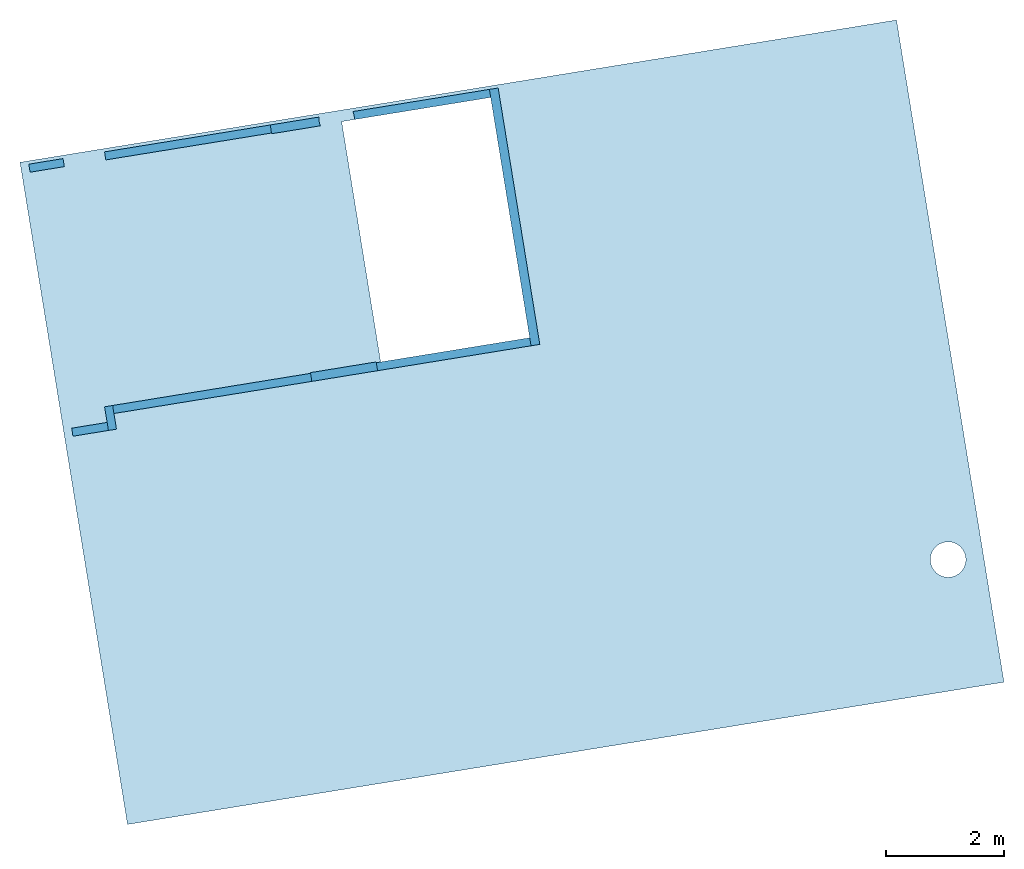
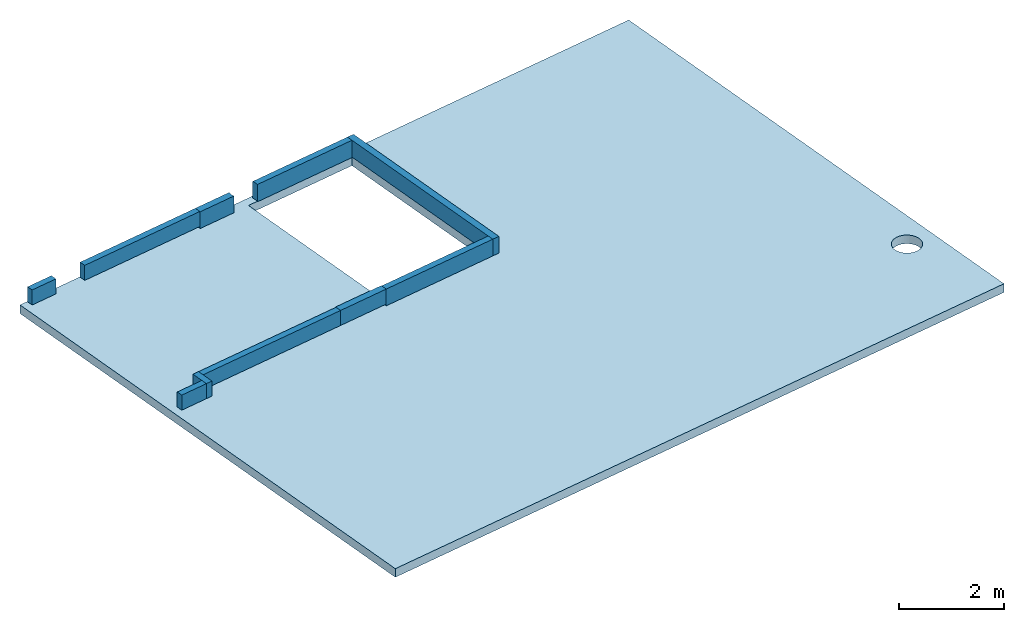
# One storey: 9 walls, 1 slab.
"""IFC2X3 building model written with IfcOpenShell, lengths in millimetres."""

from ifc_helpers import new_model, entity, si_unit, converted_unit, derived_unit, direction, frame, origin, origin_with_axes, place, context, subcontext, project, spatial, faceted_brep, material, layer, layer_set, type_object, element, save


model = new_model("IFC2X3")

# Units and contexts
model_context = context("Model", 3, precision=0.01, world=origin(), true_north=direction((6.12323399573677e-17, 1.0)))
plan_context = context("Plan", 3, precision=1e-05, world=origin_with_axes())
body_context = subcontext(model_context, "Body", "Model", "MODEL_VIEW")
ifc_project = project(units=[converted_unit("PLANEANGLEUNIT", "DEGREE", entity("IfcPositiveLengthMeasure", 0.0174532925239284), si_unit("PLANEANGLEUNIT", "RADIAN"), dimensions=[0, 0, 0, 0, 0, 0, 0]), si_unit("AREAUNIT", "SQUARE_METRE"), si_unit("LENGTHUNIT", "METRE", prefix="MILLI"), si_unit("MASSUNIT", "GRAM", prefix="KILO"), si_unit("POWERUNIT", "WATT"), si_unit("PRESSUREUNIT", "PASCAL", prefix="KILO"), si_unit("FORCEUNIT", "NEWTON", prefix="KILO"), si_unit("ELECTRICVOLTAGEUNIT", "VOLT"), si_unit("ELECTRICCURRENTUNIT", "AMPERE"), si_unit("THERMODYNAMICTEMPERATUREUNIT", "DEGREE_CELSIUS"), si_unit("TIMEUNIT", "SECOND"), si_unit("VOLUMEUNIT", "CUBIC_METRE"), derived_unit("LINEARVELOCITYUNIT", [(si_unit("LENGTHUNIT", "METRE"), 1), (si_unit("TIMEUNIT", "SECOND"), -1)]), derived_unit("VOLUMETRICFLOWRATEUNIT", [(si_unit("VOLUMEUNIT", "CUBIC_METRE"), 1), (si_unit("TIMEUNIT", "SECOND"), -1)]), derived_unit("THERMALTRANSMITTANCEUNIT", [(si_unit("POWERUNIT", "WATT"), 1), (si_unit("THERMODYNAMICTEMPERATUREUNIT", "KELVIN"), -1), (si_unit("AREAUNIT", "SQUARE_METRE"), -1)]), derived_unit("SOUNDPRESSUREUNIT", [(si_unit("PRESSUREUNIT", "PASCAL"), 1)])], contexts=[model_context, plan_context])

# Site, building, storey
site_placement = place(None, frame((-0.00071070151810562, 0.00438415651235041, 0.0), z_axis=(0.0, 0.0, 1.0), x_axis=(-0.160236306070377, 0.987078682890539, 0.0)))
site = spatial("IfcSite", under=ifc_project, at=site_placement, Name="Default", CompositionType="ELEMENT")
building_placement = place(site_placement, origin_with_axes())
building = spatial("IfcBuilding", under=site, at=building_placement, Name="TOO", CompositionType="ELEMENT")
storey_placement = place(building_placement, frame((0.0, 0.0, 55630.0), z_axis=(0.0, 0.0, 1.0), x_axis=(1.0, 0.0, 0.0)))
storey = spatial("IfcBuildingStorey", under=building, at=storey_placement, Name="Himlingsplan Nivå E", CompositionType="ELEMENT", Elevation=55630.0)

# Slab
ifc_material_1 = material(Name="_NSW Betong")
ifc_layer_1 = layer(ifc_material_1, 200.0)
ifc_layer_set_1 = layer_set([ifc_layer_1], Name="Floor:A252 - Hulldekke 200 mm")
slab_type = type_object("IfcSlabType", Name="Floor:A252 - Hulldekke 200 mm", PredefinedType="FLOOR", material=ifc_layer_set_1)
slab_placement = place(storey_placement, origin_with_axes())
element("IfcSlab", 1, at=slab_placement, inside=storey, type_object=slab_type, Name="Floor:A252 - Hulldekke 200 mm", ObjectType="Floor:A252 - Hulldekke 200 mm", PredefinedType="FLOOR", context=body_context, shape_type="Brep", body=[
    faceted_brep([(775707.619644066, -594577.480214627, -1020.0), (775707.619644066, -594577.480214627, -820.000000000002), (779820.119644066, -594577.480214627, -820.000000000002), (779820.119644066, -594577.480214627, -1020.0), (779820.119644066, -597127.480497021, -820.000000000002), (779820.119644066, -597127.480497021, -1020.0), (775707.619644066, -597127.480497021, -820.000000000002), (775707.619644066, -597127.480497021, -1020.0), (771177.619644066, -603502.480498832, -1020.0), (771177.619644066, -603502.480498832, -820.000000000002), (771173.528035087, -603551.858875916, -820.000000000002), (771173.528035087, -603551.858875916, -1020.0), (771161.364816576, -603599.890339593, -820.000000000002), (771161.364816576, -603599.890339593, -1020.0), (771141.461769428, -603645.264716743, -820.000000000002), (771141.461769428, -603645.264716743, -1020.0), (771114.361796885, -603686.744312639, -820.000000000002), (771114.361796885, -603686.744312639, -1020.0), (771080.804115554, -603723.197672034, -820.000000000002), (771080.804115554, -603723.197672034, -1020.0), (771041.704091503, -603753.630442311, -820.000000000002), (771041.704091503, -603753.630442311, -1020.0), (770998.128271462, -603777.212496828, -820.000000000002), (770998.128271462, -603777.212496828, -1020.0), (770951.265290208, -603793.300578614, -820.000000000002), (770951.265290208, -603793.300578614, -1020.0), (770902.393447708, -603801.455846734, -820.000000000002), (770902.393447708, -603801.455846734, -1020.0), (770852.845840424, -603801.455846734, -820.000000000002), (770852.845840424, -603801.455846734, -1020.0), (770803.973997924, -603793.300578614, -820.000000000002), (770803.973997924, -603793.300578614, -1020.0), (770757.11101667, -603777.212496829, -820.000000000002), (770757.11101667, -603777.212496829, -1020.0), (770713.535196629, -603753.630442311, -820.000000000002), (770713.535196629, -603753.630442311, -1020.0), (770674.435172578, -603723.197672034, -820.000000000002), (770674.435172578, -603723.197672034, -1020.0), (770640.877491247, -603686.744312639, -820.000000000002), (770640.877491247, -603686.744312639, -1020.0), (770613.777518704, -603645.264716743, -820.000000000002), (770613.777518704, -603645.264716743, -1020.0), (770593.874471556, -603599.890339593, -820.000000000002), (770593.874471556, -603599.890339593, -1020.0), (770581.711253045, -603551.858875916, -820.000000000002), (770581.711253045, -603551.858875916, -1020.0), (770577.619644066, -603502.480498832, -820.000000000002), (770577.619644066, -603502.480498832, -1020.0), (770582.177318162, -603450.386045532, -820.000000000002), (770582.177318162, -603450.386045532, -1020.0), (770595.71185783, -603399.874455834, -820.000000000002), (770595.71185783, -603399.874455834, -1020.0), (770617.812022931, -603352.480498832, -820.000000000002), (770617.812022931, -603352.480498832, -1020.0), (770647.80631113, -603309.644215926, -820.000000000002), (770647.80631113, -603309.644215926, -1020.0), (770684.78336116, -603272.667165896, -820.000000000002), (770684.78336116, -603272.667165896, -1020.0), (770727.619644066, -603242.672877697, -820.000000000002), (770727.619644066, -603242.672877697, -1020.0), (770775.013601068, -603220.572712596, -820.000000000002), (770775.013601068, -603220.572712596, -1020.0), (770825.525190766, -603207.038172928, -820.000000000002), (770825.525190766, -603207.038172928, -1020.0), (770877.619644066, -603202.480498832, -820.000000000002), (770877.619644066, -603202.480498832, -1020.0), (770929.714097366, -603207.038172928, -820.000000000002), (770929.714097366, -603207.038172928, -1020.0), (770980.225687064, -603220.572712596, -820.000000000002), (770980.225687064, -603220.572712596, -1020.0), (771027.619644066, -603242.672877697, -820.000000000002), (771027.619644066, -603242.672877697, -1020.0), (771070.455926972, -603272.667165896, -820.000000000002), (771070.455926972, -603272.667165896, -1020.0), (771107.432977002, -603309.644215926, -820.000000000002), (771107.432977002, -603309.644215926, -1020.0), (771137.427265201, -603352.480498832, -820.000000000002), (771137.427265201, -603352.480498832, -1020.0), (771159.527430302, -603399.874455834, -820.000000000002), (771159.527430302, -603399.874455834, -1020.0), (771173.06196997, -603450.386045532, -820.000000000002), (771173.06196997, -603450.386045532, -1020.0), (780012.619644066, -589104.927996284, -1020.0), (780012.619644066, -589104.927996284, -820.000000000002), (768682.619644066, -589104.927996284, -820.000000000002), (768682.619644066, -589104.927996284, -1020.0), (768682.619644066, -604102.480498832, -1020.0), (768682.619644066, -604102.480498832, -820.000000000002), (780012.619644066, -604102.480498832, -820.000000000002), (780012.619644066, -604102.480498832, -1020.0)], [[[0, 1, 2, 3]], [[3, 2, 4, 5]], [[5, 4, 6, 7]], [[7, 6, 1, 0]], [[8, 9, 10, 11]], [[11, 10, 12, 13]], [[13, 12, 14, 15]], [[15, 14, 16, 17]], [[17, 16, 18, 19]], [[19, 18, 20, 21]], [[21, 20, 22, 23]], [[23, 22, 24, 25]], [[25, 24, 26, 27]], [[27, 26, 28, 29]], [[29, 28, 30, 31]], [[31, 30, 32, 33]], [[33, 32, 34, 35]], [[35, 34, 36, 37]], [[37, 36, 38, 39]], [[39, 38, 40, 41]], [[41, 40, 42, 43]], [[43, 42, 44, 45]], [[45, 44, 46, 47]], [[47, 46, 48, 49]], [[49, 48, 50, 51]], [[51, 50, 52, 53]], [[53, 52, 54, 55]], [[55, 54, 56, 57]], [[57, 56, 58, 59]], [[59, 58, 60, 61]], [[61, 60, 62, 63]], [[63, 62, 64, 65]], [[65, 64, 66, 67]], [[67, 66, 68, 69]], [[69, 68, 70, 71]], [[71, 70, 72, 73]], [[73, 72, 74, 75]], [[75, 74, 76, 77]], [[77, 76, 78, 79]], [[79, 78, 80, 81]], [[81, 80, 9, 8]], [[82, 83, 84, 85]], [[86, 87, 88, 89]], [[85, 86, 89, 82], [0, 3, 5, 7], [8, 11, 13, 15, 17, 19, 21, 23, 25, 27, 29, 31, 33, 35, 37, 39, 41, 43, 45, 47, 49, 51, 53, 55, 57, 59, 61, 63, 65, 67, 69, 71, 73, 75, 77, 79, 81]], [[87, 84, 83, 88], [1, 6, 4, 2], [9, 80, 78, 76, 74, 72, 70, 68, 66, 64, 62, 60, 58, 56, 54, 52, 50, 48, 46, 44, 42, 40, 38, 36, 34, 32, 30, 28, 26, 24, 22, 20, 18, 16, 14, 12, 10]], [[89, 88, 83, 82]], [[87, 86, 85, 84]]], orient=[[False], [False], [False], [False], [False], [False], [False], [False], [False], [False], [False], [False], [False], [False], [False], [False], [False], [False], [False], [False], [False], [False], [False], [False], [False], [False], [False], [False], [False], [False], [False], [False], [False], [False], [False], [False], [False], [False], [False], [False], [False], [False], [False], [False, False, False], [False, False, False], [False], [False]]),
])

# Walls
ifc_material_2 = material(Name="A240 - Gipsplate")
ifc_layer_2 = layer(ifc_material_2, 12.5)
ifc_layer_3 = layer(ifc_material_2, 12.5)
ifc_layer_4 = layer(ifc_material_2, 12.5)
ifc_material_3 = material(Name="A240 - Stenderverk - Usiolert")
ifc_layer_5 = layer(ifc_material_3, 100.0)
ifc_layer_set_2 = layer_set([ifc_layer_2, ifc_layer_3, ifc_layer_4, ifc_layer_5], Name="Basic Wall:A242 - GGG100/0")
wall_type_1 = type_object("IfcWallType", Name="Basic Wall:A242 - GGG100/0", PredefinedType="STANDARD", material=ifc_layer_set_2)
wall_1_placement = place(storey_placement, frame((779888.869644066, -597127.480498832, -833.0), z_axis=(0.0, 0.0, 1.0), x_axis=(0.0, 1.0, 0.0)))
element("IfcWall", 2, at=wall_1_placement, inside=storey, type_object=wall_type_1, Name="Basic Wall:A242 - GGG100/0", ObjectType="Basic Wall:A242 - GGG100/0", context=body_context, shape_type="Brep", body=[
    faceted_brep([(2335.00000000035, -68.7500000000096, 402.999999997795), (2335.00000000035, -65.5614574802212, 402.999999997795), (2335.00000000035, -65.5614574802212, 0.0), (2335.00000000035, -68.7500000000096, 0.0), (2330.56197596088, 68.7500000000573, 402.999999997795), (4.54747350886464e-13, 68.7500000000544, 402.999999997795), (4.54747350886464e-13, 68.7500000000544, 0.0), (2330.56197596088, 68.7500000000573, 0.0), (0.0, -68.7500000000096, 402.999999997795), (0.0, -68.7500000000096, 0.0), (2326.75851256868, -21.1847834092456, 402.999999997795), (2326.75851256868, -21.1847834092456, 0.0), (2325.26792439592, 23.9260740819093, 402.999999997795), (2325.26792439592, 23.9260740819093, 0.0)], [[[0, 1, 2, 3]], [[4, 5, 6, 7]], [[5, 8, 9, 6]], [[8, 0, 3, 9]], [[1, 10, 11, 2]], [[10, 12, 13, 11]], [[12, 4, 7, 13]], [[3, 2, 11, 13, 7, 6, 9]], [[8, 5, 4, 12, 10, 1, 0]]], orient=[[False], [False], [False], [False], [False], [False], [False], [False], [False]]),
])
wall_2_placement = place(storey_placement, frame((775638.869644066, -597127.480498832, -820.0), z_axis=(0.0, 0.0, 1.0), x_axis=(0.0, 1.0, 0.0)))
element("IfcWall", 3, at=wall_2_placement, inside=storey, type_object=wall_type_1, Name="Basic Wall:A242 - GGG100/0", ObjectType="Basic Wall:A242 - GGG100/0", context=body_context, shape_type="Brep", body=[
    faceted_brep([(2624.99999999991, -68.7500000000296, 389.999999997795), (2624.99999999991, 68.7500000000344, 389.999999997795), (2624.99999999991, 68.7500000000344, 0.0), (2624.99999999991, -68.7500000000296, 0.0), (-2.27373675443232e-13, 68.7500000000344, 389.999999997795), (-2.27373675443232e-13, 68.7500000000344, 0.0), (-2.27373675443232e-13, -68.7500000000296, 389.999999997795), (-2.27373675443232e-13, -68.7500000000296, 0.0)], [[[0, 1, 2, 3]], [[1, 4, 5, 2]], [[4, 6, 7, 5]], [[6, 0, 3, 7]], [[3, 2, 5, 7]], [[6, 4, 1, 0]]], orient=[[False], [False], [False], [False], [False], [False]]),
])
wall_3_placement = place(storey_placement, frame((775638.869644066, -593377.480498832, -780.0), z_axis=(0.0, 0.0, 1.0), x_axis=(0.0, 1.0, 0.0)))
element("IfcWall", 4, at=wall_3_placement, inside=storey, type_object=wall_type_1, Name="Basic Wall:A242 - GGG100/0", ObjectType="Basic Wall:A242 - GGG100/0", context=body_context, shape_type="Brep", body=[
    faceted_brep([(3386.50293185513, -68.750000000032, 349.999999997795), (3386.50293185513, 68.750000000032, 349.999999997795), (3386.50293185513, 68.750000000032, 0.0), (3386.50293185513, -68.750000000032, 0.0), (2.27373675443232e-13, 68.750000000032, 349.999999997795), (2.27373675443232e-13, 68.750000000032, 0.0), (2.27373675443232e-13, -68.750000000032, 349.999999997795), (2.27373675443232e-13, -68.750000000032, 0.0)], [[[0, 1, 2, 3]], [[1, 4, 5, 2]], [[4, 6, 7, 5]], [[6, 0, 3, 7]], [[3, 2, 5, 7]], [[6, 4, 1, 0]]], orient=[[False], [False], [False], [False], [False], [False]]),
])
wall_4_placement = place(storey_placement, frame((779888.869644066, -593377.480498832, -780.0), z_axis=(0.0, 0.0, 1.0), x_axis=(0.0, 1.0, 0.0)))
element("IfcWall", 5, at=wall_4_placement, inside=storey, type_object=wall_type_1, Name="Basic Wall:A242 - GGG100/0", ObjectType="Basic Wall:A242 - GGG100/0", context=body_context, shape_type="Brep", body=[
    faceted_brep([(0.0, 68.750000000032, 349.999999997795), (0.0, -68.750000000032, 349.999999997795), (0.0, -68.750000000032, 0.0), (0.0, 68.750000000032, 0.0), (3544.99876000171, -68.749999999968, 349.999999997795), (4130.5480755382, -68.750000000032, 349.999999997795), (4130.5480755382, -68.750000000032, 0.0), (3544.99876000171, -68.749999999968, 4.54747350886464e-13), (2834.99876000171, -68.749999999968, 349.999999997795), (2834.99876000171, -68.749999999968, 4.54747350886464e-13), (4130.5480755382, 68.750000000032, 349.999999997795), (4130.5480755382, 68.750000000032, 0.0), (2834.99876000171, 68.750000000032, 349.999999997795), (2834.99876000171, 68.750000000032, 4.54747350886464e-13), (3544.99876000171, 68.750000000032, 349.999999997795), (3544.99876000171, 68.750000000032, 4.54747350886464e-13)], [[[0, 1, 2, 3]], [[4, 5, 6, 7]], [[1, 8, 9, 2]], [[5, 10, 11, 6]], [[12, 0, 3, 13]], [[10, 14, 15, 11]], [[15, 7, 6, 11]], [[9, 13, 3, 2]], [[14, 4, 7, 15]], [[8, 12, 13, 9]], [[12, 8, 1, 0]], [[14, 10, 5, 4]]], orient=[[False], [False], [False], [False], [False], [False], [False], [False], [False], [False], [False], [False]]),
])
wall_5_placement = place(storey_placement, frame((775707.619644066, -589922.227566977, -780.0), z_axis=(0.0, 0.0, 1.0), x_axis=(-1.0, 0.0, 0.0)))
element("IfcWall", 6, at=wall_5_placement, inside=storey, type_object=wall_type_1, Name="Basic Wall:A242 - GGG100/0", ObjectType="Basic Wall:A242 - GGG100/0", context=body_context, shape_type="Brep", body=[
    faceted_brep([(404.999999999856, -68.750000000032, 349.999999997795), (404.999999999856, 68.7500000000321, 349.999999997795), (404.999999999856, 68.7500000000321, 0.0), (404.999999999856, -68.750000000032, 0.0), (0.0, 68.7500000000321, 349.999999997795), (0.0, 68.7500000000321, 0.0), (0.0, -68.750000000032, 349.999999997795), (0.0, -68.750000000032, 0.0)], [[[0, 1, 2, 3]], [[1, 4, 5, 2]], [[4, 6, 7, 5]], [[6, 0, 3, 7]], [[3, 2, 5, 7]], [[6, 4, 1, 0]]], orient=[[False], [False], [False], [False], [False], [False]]),
])
wall_6_placement = place(storey_placement, frame((775371.369644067, -589853.477566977, -780.0), z_axis=(0.0, 0.0, 1.0), x_axis=(0.0, 1.0, 0.0)))
element("IfcWall", 7, at=wall_6_placement, inside=storey, type_object=wall_type_1, Name="Basic Wall:A242 - GGG100/0", ObjectType="Basic Wall:A242 - GGG100/0", context=body_context, shape_type="Brep", body=[
    faceted_brep([(606.545143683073, -68.750000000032, 349.999999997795), (606.545143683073, 68.750000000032, 349.999999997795), (606.545143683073, 68.750000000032, 0.0), (606.545143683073, -68.750000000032, 0.0), (0.0, 68.750000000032, 349.999999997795), (0.0, 68.750000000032, 0.0), (0.0, -68.750000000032, 349.999999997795), (0.0, -68.750000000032, 0.0)], [[[0, 1, 2, 3]], [[1, 4, 5, 2]], [[4, 6, 7, 5]], [[6, 0, 3, 7]], [[3, 2, 5, 7]], [[6, 4, 1, 0]]], orient=[[False], [False], [False], [False], [False], [False]]),
])
ifc_layer_6 = layer(ifc_material_2, 12.5)
ifc_layer_7 = layer(ifc_material_2, 12.5)
ifc_material_4 = material(Name="A200 - Isolasjon - Rock Wool")
ifc_layer_8 = layer(ifc_material_4, 100.0)
ifc_layer_9 = layer(ifc_material_2, 12.5)
ifc_layer_10 = layer(ifc_material_2, 12.5)
ifc_layer_set_3 = layer_set([ifc_layer_6, ifc_layer_7, ifc_layer_8, ifc_layer_9, ifc_layer_10], Name="Basic Wall:A242 - GG100/100GG")
wall_type_2 = type_object("IfcWallType", Name="Basic Wall:A242 - GG100/100GG", PredefinedType="STANDARD", material=ifc_layer_set_3)
wall_7_placement = place(storey_placement, frame((775645.119644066, -594502.480498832, -780.0), z_axis=(0.0, 0.0, 1.0), x_axis=(0.0, 1.0, 0.0)))
element("IfcWall", 8, at=wall_7_placement, inside=storey, type_object=wall_type_2, Name="Basic Wall:A242 - GG100/100GG", ObjectType="Basic Wall:A242 - GG100/100GG", context=body_context, shape_type="Brep", body=[
    faceted_brep([(1125.00000000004, -75.0000000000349, 349.999999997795), (1125.00000000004, 75.0000000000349, 349.999999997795), (1125.00000000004, 75.0000000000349, 0.0), (1125.00000000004, -75.0000000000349, 0.0), (0.0, 75.0000000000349, 349.999999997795), (0.0, 75.0000000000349, 0.0), (0.0, -75.0000000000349, 349.999999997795), (0.0, -75.0000000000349, 0.0)], [[[0, 1, 2, 3]], [[1, 4, 5, 2]], [[4, 6, 7, 5]], [[6, 0, 3, 7]], [[3, 2, 5, 7]], [[6, 4, 1, 0]]], orient=[[False], [False], [False], [False], [False], [False]]),
])
wall_8_placement = place(storey_placement, frame((779882.619644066, -594213.343852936, -820.0), z_axis=(0.0, 0.0, 1.0), x_axis=(0.0, 1.0, 0.0)))
element("IfcWall", 9, at=wall_8_placement, inside=storey, type_object=wall_type_2, Name="Basic Wall:A242 - GG100/100GG", ObjectType="Basic Wall:A242 - GG100/100GG", context=body_context, shape_type="Brep", body=[
    faceted_brep([(835.863354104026, -75.0, 389.999999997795), (835.863354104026, 75.0, 389.999999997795), (835.863354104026, 75.0, 0.0), (835.863354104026, -75.0, 0.0), (2.58239702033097, 74.9999999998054, 389.999999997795), (2.58239702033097, 74.9999999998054, 0.0), (7.17346004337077, 51.9075806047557, 389.999999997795), (7.17346004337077, 51.9075806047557, 0.0), (9.93945794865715, 28.5262429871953, 389.999999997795), (9.93945794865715, 28.5262429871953, 0.0), (10.8633541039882, 4.99999999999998, 389.999999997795), (10.8633541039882, 4.99999999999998, 0.0), (9.6497779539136, -21.9568715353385, 389.999999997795), (9.6497779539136, -21.9568715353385, 0.0), (6.01886795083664, -48.6956482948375, 389.999999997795), (6.01886795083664, -48.6956482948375, 0.0), (-1.13686837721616e-13, -75.0, 389.999999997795), (-1.13686837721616e-13, -75.0, 0.0)], [[[0, 1, 2, 3]], [[1, 4, 5, 2]], [[4, 6, 7, 5]], [[6, 8, 9, 7]], [[8, 10, 11, 9]], [[10, 12, 13, 11]], [[12, 14, 15, 13]], [[14, 16, 17, 15]], [[16, 0, 3, 17]], [[3, 2, 5, 7, 9, 11, 13, 15, 17]], [[16, 14, 12, 10, 8, 6, 4, 1, 0]]], orient=[[False], [False], [False], [False], [False], [False], [False], [False], [False], [False], [False]]),
])
wall_9_placement = place(storey_placement, frame((775570.119644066, -597202.480498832, -820.0), z_axis=(0.0, 0.0, 1.0), x_axis=(1.0, 0.0, 0.0)))
element("IfcWall", 10, at=wall_9_placement, inside=storey, type_object=wall_type_2, Name="Basic Wall:A242 - GG100/100GG", ObjectType="Basic Wall:A242 - GG100/100GG", context=body_context, shape_type="Brep", body=[
    faceted_brep([(4387.50000000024, -74.9999999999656, 389.999999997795), (4387.50000000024, 74.9999999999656, 389.999999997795), (4387.50000000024, 74.9999999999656, 0.0), (4387.50000000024, -74.9999999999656, 0.0), (0.0, 74.9999999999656, 389.999999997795), (0.0, 74.9999999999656, 0.0), (0.0, -74.9999999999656, 389.999999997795), (0.0, -74.9999999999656, 0.0)], [[[0, 1, 2, 3]], [[1, 4, 5, 2]], [[4, 6, 7, 5]], [[6, 0, 3, 7]], [[3, 2, 5, 7]], [[6, 4, 1, 0]]], orient=[[False], [False], [False], [False], [False], [False]]),
])

save(model, "model.ifc")
